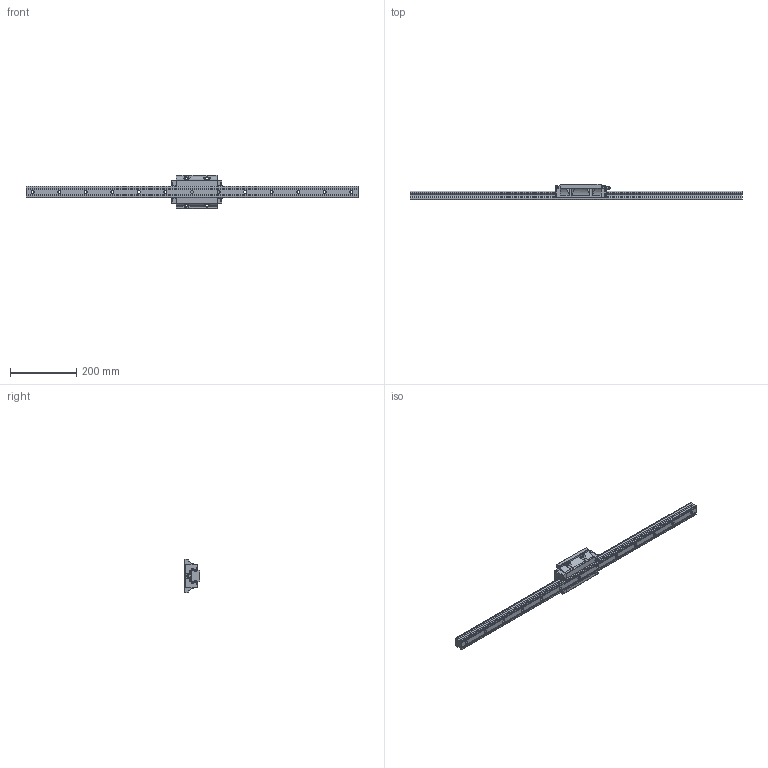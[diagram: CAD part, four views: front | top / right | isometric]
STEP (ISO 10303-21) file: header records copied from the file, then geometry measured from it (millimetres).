
FILE_DESCRIPTION (( 'STEP AP214' ), '1' );
FILE_NAME ('EGH35FL.STEP', '2021-07-06T05:48:55', ( '' ), ( '' ), 'SwSTEP 2.0', 'SolidWorks 2019', '' );
FILE_SCHEMA (( 'AUTOMOTIVE_DESIGN' ));
Length unit declared in the file: millimetre
Products named in the file (4): M6グリースニップル; EGH35FL; EG35レール; EGH35FLキャリッジ
Assembly tree (3 placements, depth 2):
  EGH35FL
    EG35レール
    EGH35FLキャリッジ
    M6グリースニップル
Bounding box: 1000 x 48 x 100 mm (x, y, z)
Volume: 1155620.5 mm3; surface area: 203121.6 mm2
Topology: 7 solids, 7 shells, 581 faces, 1615 edges, 1067 vertices
Faces by surface type: plane 373, cylinder 184, cone 20, torus 3, sphere 1
Full cylindrical faces by diameter (mm): 6 x1, 7.75 x1, 8 x1, 9 x13, 14 x13
Entity records: 24514 total; most frequent: CARTESIAN_POINT 3578, ORIENTED_EDGE 3152, DIRECTION 3104, EDGE_CURVE 1576, LINE 1156, VECTOR 1156, VERTEX_POINT 1063, AXIS2_PLACEMENT_3D 974
